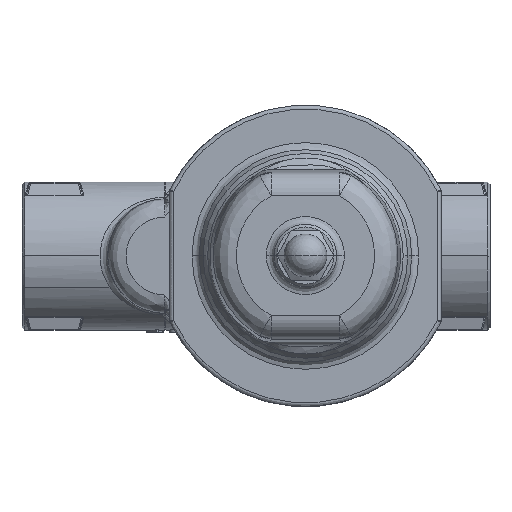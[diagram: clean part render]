
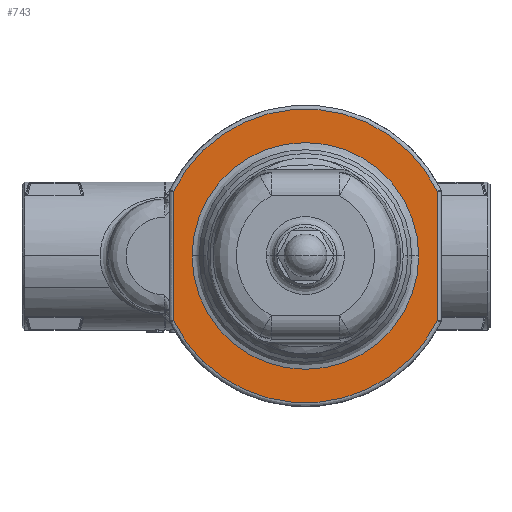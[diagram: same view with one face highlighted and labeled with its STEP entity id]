
A CAD part, top view. The second image highlights one B-rep face of the part: STEP entity #743.
In plain terms, the highlighted planar face has unit normal (0, 0, 1).
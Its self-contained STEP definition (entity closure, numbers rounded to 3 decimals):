
#743=ADVANCED_FACE('',(#6036,#6037),#6035,.F.);
#6035=PLANE('',#16041);
#6036=FACE_OUTER_BOUND('',#16042,.T.);
#6037=FACE_BOUND('',#16043,.T.);
#16038=CARTESIAN_POINT('',(60.75,-66.5,8.));
#16039=DIRECTION('',(0.,0.,-1.));
#16040=DIRECTION('',(-1.,0.,0.));
#16041=AXIS2_PLACEMENT_3D('',#16038,#16039,#16040);
#16042=EDGE_LOOP('',(#19557,#19558,#19559,#19560));
#16043=EDGE_LOOP('',(#19561,#19562));
#19557=ORIENTED_EDGE('',*,*,#21072,.T.);
#19558=ORIENTED_EDGE('',*,*,#21082,.T.);
#19559=ORIENTED_EDGE('',*,*,#21070,.T.);
#19560=ORIENTED_EDGE('',*,*,#21076,.T.);
#19561=ORIENTED_EDGE('',*,*,#21111,.F.);
#19562=ORIENTED_EDGE('',*,*,#21112,.F.);
#21070=EDGE_CURVE('',#29060,#29053,#29061,.T.);
#21072=EDGE_CURVE('',#29073,#29074,#29075,.T.);
#21076=EDGE_CURVE('',#29053,#29073,#29101,.T.);
#21082=EDGE_CURVE('',#29074,#29060,#29141,.T.);
#21111=EDGE_CURVE('',#29330,#29331,#29332,.T.);
#21112=EDGE_CURVE('',#29331,#29330,#29338,.T.);
#29053=VERTEX_POINT('',#38179);
#29060=VERTEX_POINT('',#38184);
#29061=LINE('',#38185,#38186);
#29073=VERTEX_POINT('',#38192);
#29074=VERTEX_POINT('',#38193);
#29075=LINE('',#38194,#38195);
#29101=CIRCLE('',#38213,56.5);
#29141=CIRCLE('',#38241,56.5);
#29330=VERTEX_POINT('',#38379);
#29331=VERTEX_POINT('',#38380);
#29332=CIRCLE('',#38384,43.594);
#29338=CIRCLE('',#38388,43.594);
#38179=CARTESIAN_POINT('',(50.75,24.833,8.));
#38184=CARTESIAN_POINT('',(50.75,-24.833,8.));
#38185=CARTESIAN_POINT('',(50.75,-24.833,8.));
#38186=VECTOR('',#38187,49.666);
#38187=DIRECTION('',(0.,1.,0.));
#38192=CARTESIAN_POINT('',(-50.75,24.833,8.));
#38193=CARTESIAN_POINT('',(-50.75,-24.833,8.));
#38194=CARTESIAN_POINT('',(-50.75,24.833,8.));
#38195=VECTOR('',#38196,49.666);
#38196=DIRECTION('',(0.,-1.,0.));
#38210=CARTESIAN_POINT('',(0.,0.,8.));
#38211=DIRECTION('',(0.,0.,1.));
#38212=DIRECTION('',(1.,0.,0.));
#38213=AXIS2_PLACEMENT_3D('',#38210,#38211,#38212);
#38238=CARTESIAN_POINT('',(0.,0.,8.));
#38239=DIRECTION('',(0.,0.,1.));
#38240=DIRECTION('',(1.,0.,0.));
#38241=AXIS2_PLACEMENT_3D('',#38238,#38239,#38240);
#38379=CARTESIAN_POINT('',(43.594,0.,8.));
#38380=CARTESIAN_POINT('',(-43.594,0.,8.));
#38381=CARTESIAN_POINT('',(0.,0.,8.));
#38382=DIRECTION('',(0.,0.,1.));
#38383=DIRECTION('',(-1.,0.,0.));
#38384=AXIS2_PLACEMENT_3D('',#38381,#38382,#38383);
#38385=CARTESIAN_POINT('',(0.,0.,8.));
#38386=DIRECTION('',(0.,0.,1.));
#38387=DIRECTION('',(-1.,0.,0.));
#38388=AXIS2_PLACEMENT_3D('',#38385,#38386,#38387);
